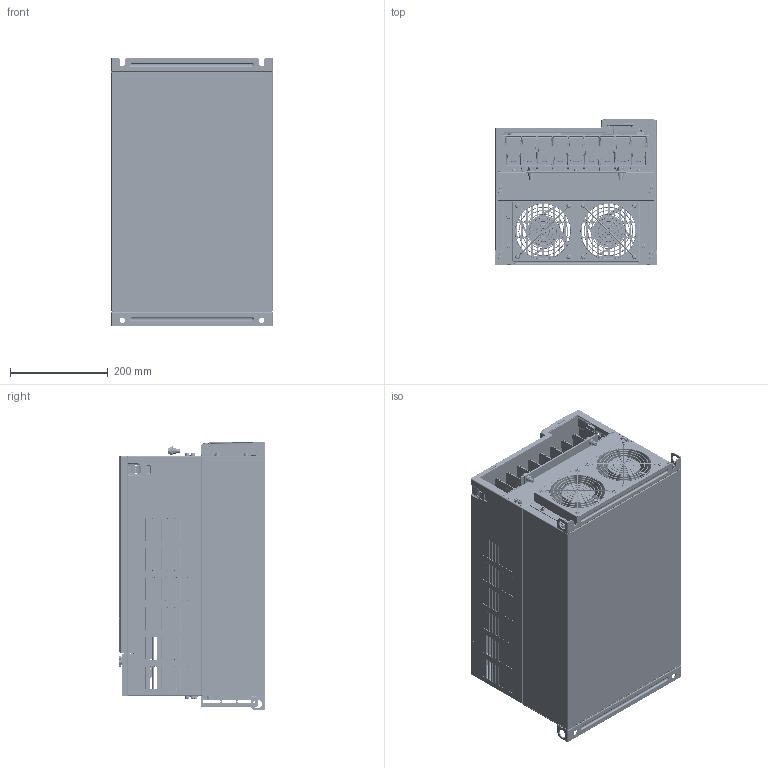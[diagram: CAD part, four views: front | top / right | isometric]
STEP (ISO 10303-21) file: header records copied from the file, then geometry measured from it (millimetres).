
FILE_DESCRIPTION((''),'2;1');
FILE_NAME('VFD-MH300-I-PD-3D00_ASM','2023-12-27T09:26:40',('EDWARD.LIAO'),(''),'CREO PARAMETRIC BY PTC INC, 2022162','CREO PARAMETRIC BY PTC INC, 2022162','');
FILE_SCHEMA(('AUTOMOTIVE_DESIGN { 1 0 10303 214 1 1 1 1 }'));
Products named in the file (325): MH300-FRAME-I_ASM_2_1; MH300-FRAME-I_ASM_4_1; MH300-FRAME-I_ASM_7_1; MH300-FRAME-I_ASM_8_1; MH300-FRAME-I_ASM_9_1; MH300-FRAME-I_ASM_11_1; MH300-FRAME-I_ASM_12_1; MH300-FRAME-I_ASM_13_1; MH300-FRAME-I_ASM_14_1; MH300-FRAME-I_ASM_15_1; MH300-FRAME-I_ASM_16_1; MH300-FRAME-I_ASM_17_1; MH300-FRAME-I_ASM_18_1; MH300-FRAME-I_ASM_19_1; MH300-FRAME-I_ASM_20_1; MH300-FRAME-I_ASM_21_1; MH300-FRAME-I_ASM_22_1; MH300-FRAME-I_ASM_23_1; MH300-FRAME-I_ASM_24_1; MH300-FRAME-I_ASM_25_1; MH300-FRAME-I_ASM_26_1; MH300-FRAME-I_ASM_27_1; MH300-FRAME-I_ASM_28_1; MH300-FRAME-I_ASM_29_1; MH300-FRAME-I_ASM_30_1; MH300-FRAME-I_ASM_31_1; MH300-FRAME-I_ASM_32_1; MH300-FRAME-I_ASM_33_1; MH300-FRAME-I_ASM_34_1; MH300-FRAME-I_ASM_35_1; MH300-FRAME-I_ASM_37_1; MH300-FRAME-I_ASM_38_1; MH300-FRAME-I_ASM_39_1; MH300-FRAME-I_ASM_40_1; MH300-FRAME-I_ASM_41_1; MH300-FRAME-I_ASM_42_1; MH300-FRAME-I_ASM_43_1; MH300-FRAME-I_ASM_44_1; MH300-FRAME-I_ASM_45_1; MH300-FRAME-I_ASM_46_1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
Assembly tree (324 placements, depth 4):
  VFD-MH300-I-PD-3D00_ASM
    CAD0000911159_ASM_1_ASM
      MH300-FRAME-I_ASM_2_1
      MH300-FRAME-I_ASM_4_1
      MH300-FRAME-I_ASM_7_1
      MH300-FRAME-I_ASM_8_1
      MH300-FRAME-I_ASM_9_1
      MH300-FRAME-I_ASM_11_1
      MH300-FRAME-I_ASM_12_1
      MH300-FRAME-I_ASM_13_1
      MH300-FRAME-I_ASM_14_1
      MH300-FRAME-I_ASM_15_1
      MH300-FRAME-I_ASM_16_1
      MH300-FRAME-I_ASM_17_1
      MH300-FRAME-I_ASM_18_1
      MH300-FRAME-I_ASM_19_1
      MH300-FRAME-I_ASM_20_1
      MH300-FRAME-I_ASM_21_1
      MH300-FRAME-I_ASM_22_1
      MH300-FRAME-I_ASM_23_1
      MH300-FRAME-I_ASM_24_1
      MH300-FRAME-I_ASM_25_1
      MH300-FRAME-I_ASM_26_1
      MH300-FRAME-I_ASM_27_1
      MH300-FRAME-I_ASM_28_1
      MH300-FRAME-I_ASM_29_1
      MH300-FRAME-I_ASM_30_1
      MH300-FRAME-I_ASM_31_1
      MH300-FRAME-I_ASM_32_1
      MH300-FRAME-I_ASM_33_1
      MH300-FRAME-I_ASM_34_1
      MH300-FRAME-I_ASM_35_1
      MH300-FRAME-I_ASM_37_1
      MH300-FRAME-I_ASM_38_1
      MH300-FRAME-I_ASM_39_1
      MH300-FRAME-I_ASM_40_1
      MH300-FRAME-I_ASM_41_1
      MH300-FRAME-I_ASM_42_1
      MH300-FRAME-I_ASM_43_1
      MH300-FRAME-I_ASM_44_1
      MH300-FRAME-I_ASM_45_1
      MH300-FRAME-I_ASM_46_1
      MH300-FRAME-I_ASM_47_1
      MH300-FRAME-I_ASM_48_1
      MH300-FRAME-I_ASM_49_1
      MH300-FRAME-I_ASM_50_1
      MH300-FRAME-I_ASM_51_1
      MH300-FRAME-I_ASM_52_1
      MH300-FRAME-I_ASM_53_1
      MH300-FRAME-I_ASM_54_1
      MH300-FRAME-I_ASM_55_1
      MH300-FRAME-I_ASM_56_1
      MH300-FRAME-I_ASM_59_1
      MH300-FRAME-I_ASM_60_1
      MH300-FRAME-I_ASM_61_1
      MH300-FRAME-I_ASM_62_1
      MH300-FRAME-I_ASM_65_1
      MH300-FRAME-I_ASM_66_1
      MH300-FRAME-I_ASM_67_1
      MH300-FRAME-I_ASM_68_1
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Bounding box: 330 x 300 x 550 mm (x, y, z)
Volume: 3228923.7 mm3; surface area: 3099332.8 mm2
Topology: 318 solids, 333 shells, 27893 faces, 75411 edges, 48166 vertices
Faces by surface type: plane 16438, cylinder 7441, cone 1321, torus 1254, bspline 1248, sphere 151, extrusion 22, revolution 18
Entity records: 1221269 total; most frequent: CARTESIAN_POINT 310941, ORIENTED_EDGE 149747, DIRECTION 144520, EDGE_CURVE 75186, VECTOR 50758, LINE 50736, VERTEX_POINT 48166, AXIS2_PLACEMENT_3D 46386
